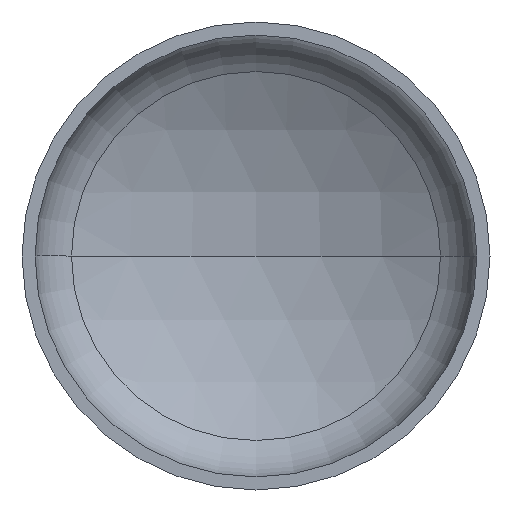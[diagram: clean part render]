
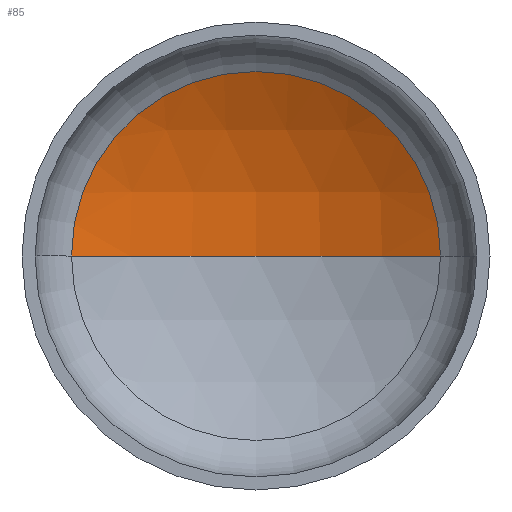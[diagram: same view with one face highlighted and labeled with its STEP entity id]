
A CAD part, front view. The second image highlights one B-rep face of the part: STEP entity #85.
In plain terms, the highlighted spherical face has radius 1120 mm.
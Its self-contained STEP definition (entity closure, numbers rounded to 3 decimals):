
#2 = FACE_OUTER_BOUND ( 'NONE', #28, .T. ) ;
#20 = AXIS2_PLACEMENT_3D ( 'NONE', #173, #290, #153 ) ;
#23 = AXIS2_PLACEMENT_3D ( 'NONE', #408, #266, #224 ) ;
#26 = AXIS2_PLACEMENT_3D ( 'NONE', #155, #165, #157 ) ;
#27 = ORIENTED_EDGE ( 'NONE', *, *, #345, .T. ) ;
#28 = EDGE_LOOP ( 'NONE', ( #46, #27, #39 ) ) ;
#33 = VERTEX_POINT ( 'NONE', #268 ) ;
#39 = ORIENTED_EDGE ( 'NONE', *, *, #342, .T. ) ;
#46 = ORIENTED_EDGE ( 'NONE', *, *, #350, .F. ) ;
#68 = VERTEX_POINT ( 'NONE', #273 ) ;
#85 = ADVANCED_FACE ( 'NONE', ( #2 ), #134, .F. ) ;
#86 = AXIS2_PLACEMENT_3D ( 'NONE', #242, #236, #235 ) ;
#134 = SPHERICAL_SURFACE ( 'NONE', #86, 1120. ) ;
#153 = DIRECTION ( 'NONE',  ( 1., 0., 0. ) ) ;
#155 = CARTESIAN_POINT ( 'NONE',  ( 0., 307.079, 0. ) ) ;
#157 = DIRECTION ( 'NONE',  ( 1., 0., 0. ) ) ;
#165 = DIRECTION ( 'NONE',  ( 0., -1., 0. ) ) ;
#173 = CARTESIAN_POINT ( 'NONE',  ( 0., -667.47, 0. ) ) ;
#175 = CIRCLE ( 'NONE', #20, 1120. ) ;
#224 = DIRECTION ( 'NONE',  ( -1., 0., 0. ) ) ;
#233 = CIRCLE ( 'NONE', #26, 551.956 ) ;
#235 = DIRECTION ( 'NONE',  ( -1., 0., 0. ) ) ;
#236 = DIRECTION ( 'NONE',  ( 0., 0., -1. ) ) ;
#242 = CARTESIAN_POINT ( 'NONE',  ( 0., -667.47, 0. ) ) ;
#266 = DIRECTION ( 'NONE',  ( 0., 0., -1. ) ) ;
#268 = CARTESIAN_POINT ( 'NONE',  ( 0., 452.53, 0. ) ) ;
#273 = CARTESIAN_POINT ( 'NONE',  ( 551.956, 307.079, 0. ) ) ;
#290 = DIRECTION ( 'NONE',  ( 0., 0., 1. ) ) ;
#342 = EDGE_CURVE ( 'NONE', #68, #349, #233, .T. ) ;
#345 = EDGE_CURVE ( 'NONE', #33, #68, #359, .T. ) ;
#349 = VERTEX_POINT ( 'NONE', #397 ) ;
#350 = EDGE_CURVE ( 'NONE', #33, #349, #175, .T. ) ;
#359 = CIRCLE ( 'NONE', #23, 1120. ) ;
#397 = CARTESIAN_POINT ( 'NONE',  ( -551.956, 307.079, 0. ) ) ;
#408 = CARTESIAN_POINT ( 'NONE',  ( 0., -667.47, 0. ) ) ;
